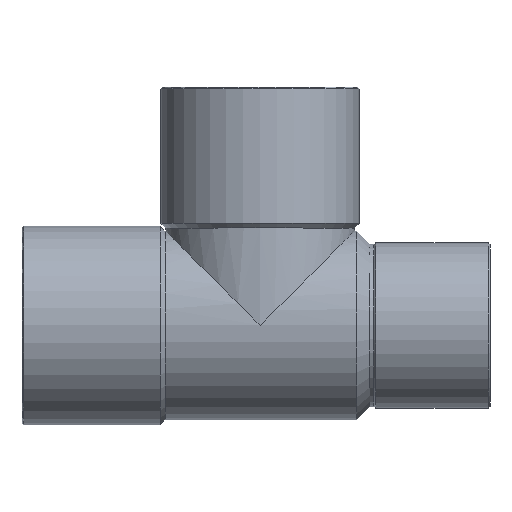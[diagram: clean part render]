
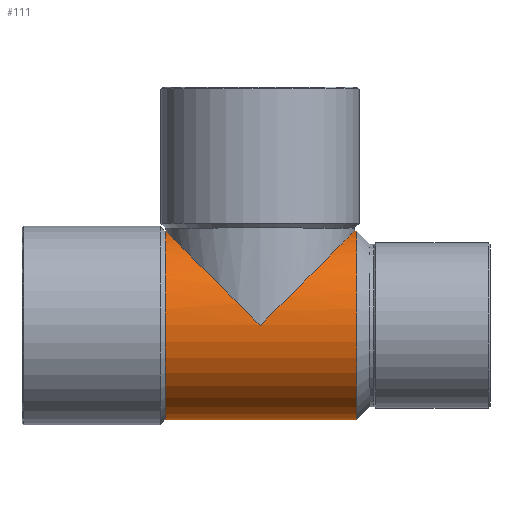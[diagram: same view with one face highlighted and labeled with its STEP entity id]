
A CAD part, top view. The second image highlights one B-rep face of the part: STEP entity #111.
In plain terms, the highlighted cylindrical face has radius 11.5 mm (diameter 23 mm), a partial arc.
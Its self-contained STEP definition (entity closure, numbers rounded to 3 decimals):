
#44=CARTESIAN_POINT('',(-0.5,0.,0.0));
#45=DIRECTION('',(1.0,0.,0.0));
#46=DIRECTION('',(0.,1.0,0.0));
#47=AXIS2_PLACEMENT_3D('',#44,#45,#46);
#48=CYLINDRICAL_SURFACE('',#47,11.5);
#49=CARTESIAN_POINT('',(-11.582,11.5,0.));
#50=VERTEX_POINT('',#49);
#51=CARTESIAN_POINT('',(-11.5,11.5,0.));
#52=VERTEX_POINT('',#51);
#53=CARTESIAN_POINT('',(-11.582,11.5,0.));
#54=DIRECTION('',(1.0,0.0,0.0));
#55=VECTOR('',#54,0.082);
#56=LINE('',#53,#55);
#57=EDGE_CURVE('',#50,#52,#56,.T.);
#58=ORIENTED_EDGE('',*,*,#57,.F.);
#59=CARTESIAN_POINT('',(-11.582,-11.5,0.));
#60=VERTEX_POINT('',#59);
#61=CARTESIAN_POINT('',(-11.582,0.,0.0));
#62=DIRECTION('',(1.0,0.,0.0));
#63=DIRECTION('',(0.,1.0,0.0));
#64=AXIS2_PLACEMENT_3D('',#61,#62,#63);
#65=CIRCLE('',#64,11.5);
#66=EDGE_CURVE('',#50,#60,#65,.T.);
#67=ORIENTED_EDGE('',*,*,#66,.T.);
#68=CARTESIAN_POINT('',(11.768,-11.5,0.));
#69=VERTEX_POINT('',#68);
#70=CARTESIAN_POINT('',(11.768,-11.5,0.));
#71=DIRECTION('',(-1.0,0.0,0.0));
#72=VECTOR('',#71,23.35);
#73=LINE('',#70,#72);
#74=EDGE_CURVE('',#69,#60,#73,.T.);
#75=ORIENTED_EDGE('',*,*,#74,.F.);
#76=CARTESIAN_POINT('',(11.768,11.5,0.0));
#77=VERTEX_POINT('',#76);
#78=CARTESIAN_POINT('',(11.768,0.,0.0));
#79=DIRECTION('',(-1.0,0.,0.0));
#80=DIRECTION('',(0.,1.0,0.0));
#81=AXIS2_PLACEMENT_3D('',#78,#79,#80);
#82=CIRCLE('',#81,11.5);
#83=EDGE_CURVE('',#69,#77,#82,.T.);
#84=ORIENTED_EDGE('',*,*,#83,.T.);
#85=CARTESIAN_POINT('',(11.5,11.5,0.));
#86=VERTEX_POINT('',#85);
#87=CARTESIAN_POINT('',(11.5,11.5,0.));
#88=DIRECTION('',(1.0,0.0,0.0));
#89=VECTOR('',#88,0.268);
#90=LINE('',#87,#89);
#91=EDGE_CURVE('',#86,#77,#90,.T.);
#92=ORIENTED_EDGE('',*,*,#91,.F.);
#93=CARTESIAN_POINT('',(0.,0.,11.5));
#94=VERTEX_POINT('',#93);
#95=CARTESIAN_POINT('',(0.,0.,0.0));
#96=DIRECTION('',(0.707,-0.707,0.0));
#97=DIRECTION('',(0.707,0.707,0.0));
#98=AXIS2_PLACEMENT_3D('',#95,#96,#97);
#99=ELLIPSE('',#98,16.263,11.5);
#100=EDGE_CURVE('',#86,#94,#99,.T.);
#101=ORIENTED_EDGE('',*,*,#100,.T.);
#102=CARTESIAN_POINT('',(0.,0.,0.0));
#103=DIRECTION('',(-0.707,-0.707,0.0));
#104=DIRECTION('',(0.707,-0.707,0.0));
#105=AXIS2_PLACEMENT_3D('',#102,#103,#104);
#106=ELLIPSE('',#105,16.263,11.5);
#107=EDGE_CURVE('',#94,#52,#106,.T.);
#108=ORIENTED_EDGE('',*,*,#107,.T.);
#109=EDGE_LOOP('',(#58,#67,#75,#84,#92,#101,#108));
#110=FACE_OUTER_BOUND('',#109,.T.);
#111=ADVANCED_FACE('',(#110),#48,.T.);
